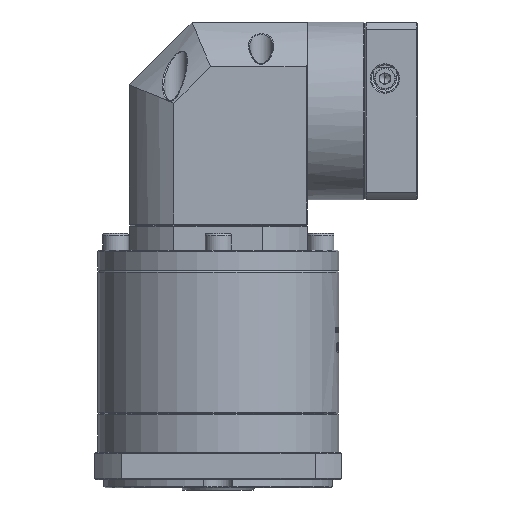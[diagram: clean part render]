
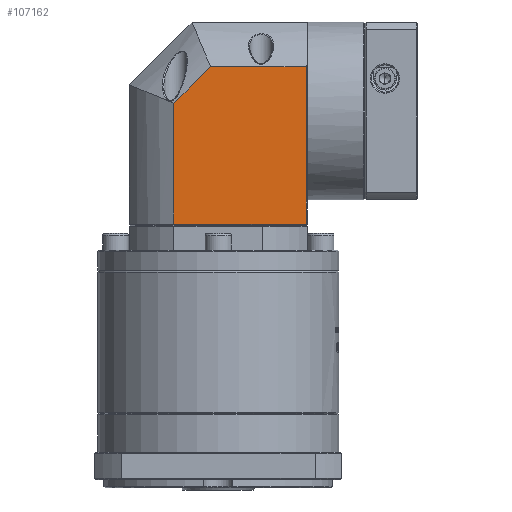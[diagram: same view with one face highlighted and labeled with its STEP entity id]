
A CAD part, front view. The second image highlights one B-rep face of the part: STEP entity #107162.
In plain terms, the highlighted planar face has unit normal (0, -1, 0).
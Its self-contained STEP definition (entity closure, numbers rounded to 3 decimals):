
#7453 = EDGE_LOOP ( 'NONE', ( #114092, #53434, #70090, #154296, #47123 ) ) ;
#12586 = VERTEX_POINT ( 'NONE', #95013 ) ;
#17125 = CARTESIAN_POINT ( 'NONE',  ( -9.433, 100.462, 21.926 ) ) ;
#18205 = CARTESIAN_POINT ( 'NONE',  ( 53.78, 100.462, 60.743 ) ) ;
#20897 = LINE ( 'NONE', #18205, #45580 ) ;
#21007 = CARTESIAN_POINT ( 'NONE',  ( 53.78, 100.462, -35.757 ) ) ;
#22817 = CARTESIAN_POINT ( 'NONE',  ( 53.78, 100.462, 39.456 ) ) ;
#28752 = VERTEX_POINT ( 'NONE', #31178 ) ;
#31178 = CARTESIAN_POINT ( 'NONE',  ( -9.433, 100.462, 21.926 ) ) ;
#37113 = PLANE ( 'NONE',  #97001 ) ;
#44169 = DIRECTION ( 'NONE',  ( 0., 0., -1. ) ) ;
#45580 = VECTOR ( 'NONE', #44169, 1000. ) ;
#45785 = LINE ( 'NONE', #17125, #140429 ) ;
#47123 = ORIENTED_EDGE ( 'NONE', *, *, #132425, .F. ) ;
#48305 = VERTEX_POINT ( 'NONE', #21007 ) ;
#51631 = VECTOR ( 'NONE', #86049, 1000. ) ;
#51913 = CARTESIAN_POINT ( 'NONE',  ( -9.433, 100.462, -35.757 ) ) ;
#53434 = ORIENTED_EDGE ( 'NONE', *, *, #155270, .F. ) ;
#57055 = FACE_OUTER_BOUND ( 'NONE', #7453, .T. ) ;
#69261 = VERTEX_POINT ( 'NONE', #51913 ) ;
#70090 = ORIENTED_EDGE ( 'NONE', *, *, #137765, .F. ) ;
#86049 = DIRECTION ( 'NONE',  ( 1., 0., 0. ) ) ;
#89700 = LINE ( 'NONE', #107538, #163749 ) ;
#94909 = LINE ( 'NONE', #165916, #51631 ) ;
#95013 = CARTESIAN_POINT ( 'NONE',  ( 8.097, 100.462, 39.456 ) ) ;
#97001 = AXIS2_PLACEMENT_3D ( 'NONE', #119211, #120324, #160017 ) ;
#107162 = ADVANCED_FACE ( 'NONE', ( #57055 ), #37113, .F. ) ;
#107538 = CARTESIAN_POINT ( 'NONE',  ( -9.433, 100.462, 60.743 ) ) ;
#110164 = VERTEX_POINT ( 'NONE', #22817 ) ;
#114092 = ORIENTED_EDGE ( 'NONE', *, *, #142374, .T. ) ;
#115991 = EDGE_CURVE ( 'NONE', #28752, #12586, #45785, .T. ) ;
#119211 = CARTESIAN_POINT ( 'NONE',  ( 54.28, 100.462, 60.743 ) ) ;
#120324 = DIRECTION ( 'NONE',  ( 0., 1., 0. ) ) ;
#121297 = DIRECTION ( 'NONE',  ( 1., 0., 0. ) ) ;
#121865 = CARTESIAN_POINT ( 'NONE',  ( 54.28, 100.462, -35.757 ) ) ;
#132425 = EDGE_CURVE ( 'NONE', #69261, #28752, #89700, .T. ) ;
#133984 = DIRECTION ( 'NONE',  ( 0.707, 0., 0.707 ) ) ;
#134520 = DIRECTION ( 'NONE',  ( 0., 0., 1. ) ) ;
#137765 = EDGE_CURVE ( 'NONE', #12586, #110164, #94909, .T. ) ;
#140429 = VECTOR ( 'NONE', #133984, 1000. ) ;
#142374 = EDGE_CURVE ( 'NONE', #69261, #48305, #159538, .T. ) ;
#154296 = ORIENTED_EDGE ( 'NONE', *, *, #115991, .F. ) ;
#155270 = EDGE_CURVE ( 'NONE', #110164, #48305, #20897, .T. ) ;
#159538 = LINE ( 'NONE', #121865, #161703 ) ;
#160017 = DIRECTION ( 'NONE',  ( -1., 0., 0. ) ) ;
#161703 = VECTOR ( 'NONE', #121297, 1000. ) ;
#163749 = VECTOR ( 'NONE', #134520, 1000. ) ;
#165916 = CARTESIAN_POINT ( 'NONE',  ( 54.28, 100.462, 39.456 ) ) ;
